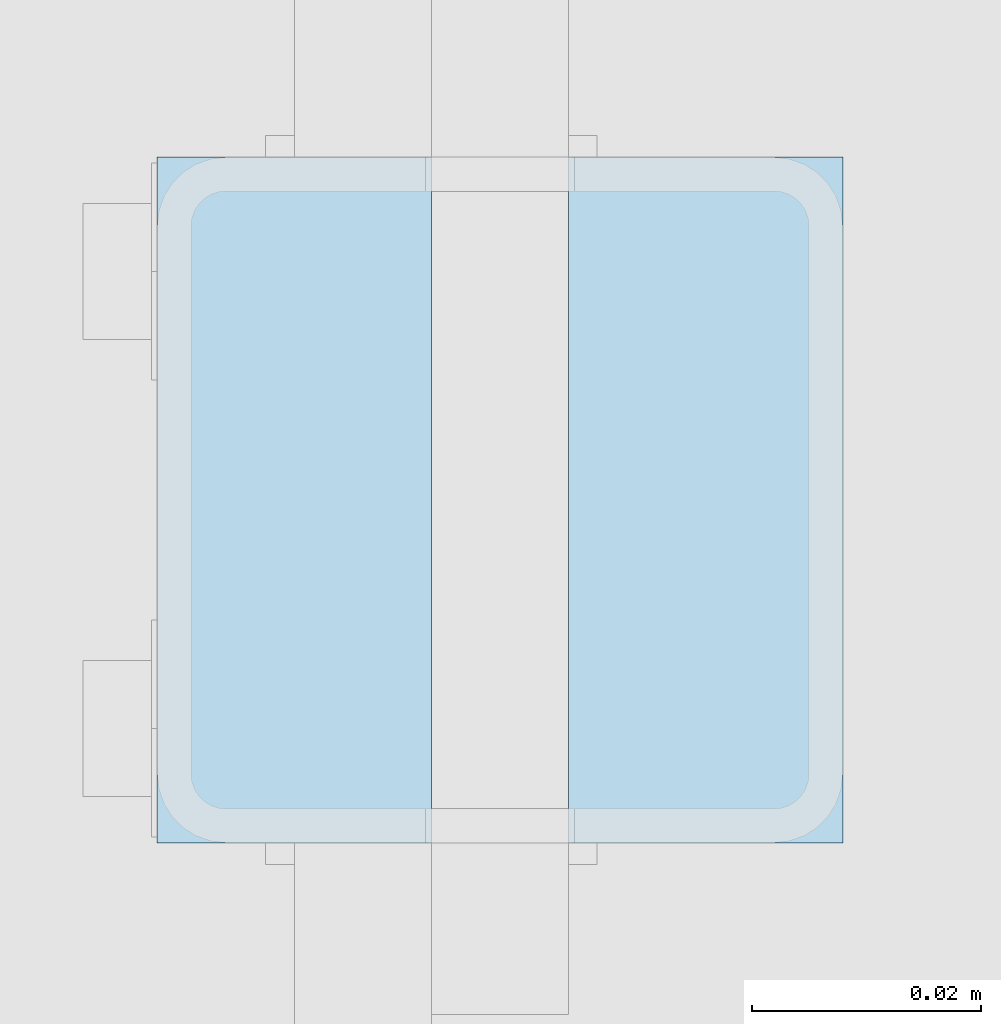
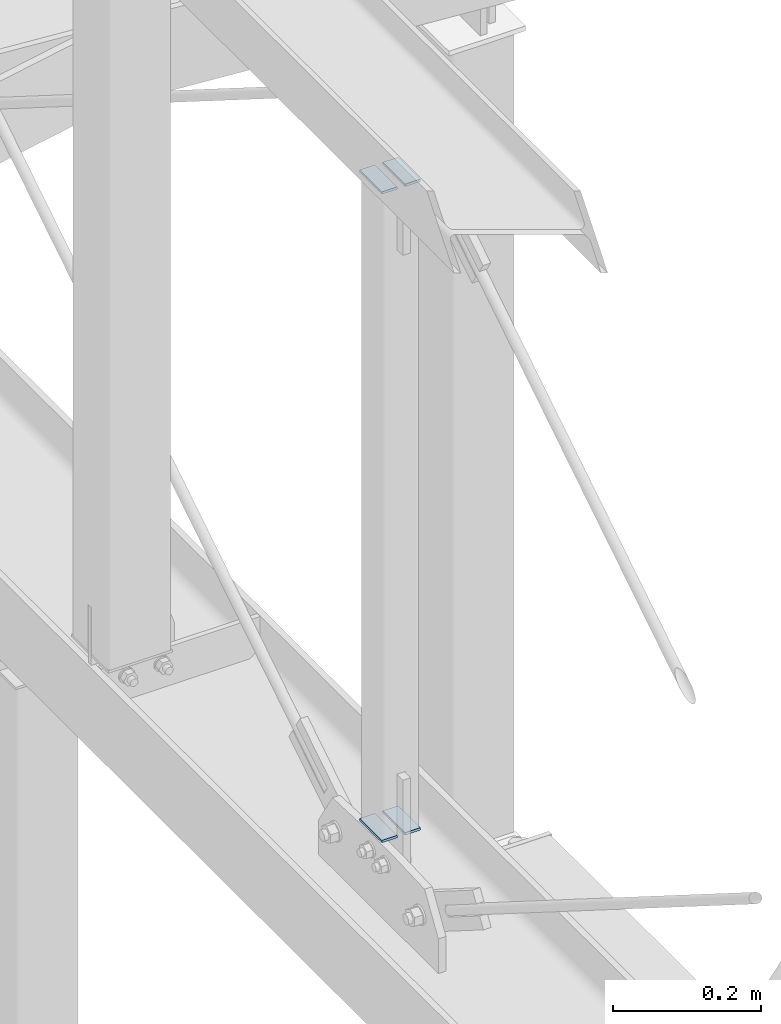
# One storey, part 201 of 271: 4 plates, 1 element without a shape of its own.
"""IFC2X3 building model written with IfcOpenShell, lengths in millimetres."""

from ifc_helpers import new_model, si_unit, frame, origin_with_axes, place, context, subcontext, project, spatial, polyline, outline, extrude, material, type_object, element, aggregate, save


model = new_model("IFC2X3")

# Units and contexts
model_context = context("Model", 3, precision=1e-05, world=origin_with_axes())
body_context = subcontext(model_context, "Body", "Model", "MODEL_VIEW")
ifc_project = project(units=[si_unit("LENGTHUNIT", "METRE", prefix="MILLI"), si_unit("AREAUNIT", "SQUARE_METRE"), si_unit("VOLUMEUNIT", "CUBIC_METRE"), si_unit("MASSUNIT", "GRAM", prefix="KILO"), si_unit("TIMEUNIT", "SECOND"), si_unit("PLANEANGLEUNIT", "RADIAN"), si_unit("SOLIDANGLEUNIT", "STERADIAN"), si_unit("THERMODYNAMICTEMPERATUREUNIT", "DEGREE_CELSIUS"), si_unit("LUMINOUSINTENSITYUNIT", "LUMEN")], contexts=[model_context])

# Site, building, storey
site_placement = place(None, origin_with_axes())
site = spatial("IfcSite", under=ifc_project, at=site_placement, Name="Undefined", CompositionType="ELEMENT")
building_placement = place(site_placement, origin_with_axes())
building = spatial("IfcBuilding", under=site, at=building_placement, Name="Undefined", CompositionType="ELEMENT")
storey_placement = place(building_placement, origin_with_axes())
storey = spatial("IfcBuildingStorey", under=building, at=storey_placement, Name="Undefined", CompositionType="ELEMENT", Elevation=0.0)

# Assembly, plates
assembly_placement = place(storey_placement, origin_with_axes())
assembly = element("IfcElementAssembly", 1, at=assembly_placement, inside=storey, AssemblyPlace="NOTDEFINED", PredefinedType="RIGID_FRAME")
ifc_material = material(Name="STEEL/S355JR")
plate_type = type_object("IfcPlateType", Name="BL4*24", PredefinedType="NOTDEFINED")
plate_1_placement = place(assembly_placement, frame((128.999999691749, 2149.19355050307, 19859.4686765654), z_axis=(0.0, 0.0, -1.0), x_axis=(-1.0, 0.0, 1.38777878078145e-17)))
plate_1 = element("IfcPlate", 2, at=plate_1_placement, type_object=plate_type, material=ifc_material, Name="BLACHA", ObjectType="BL4*24", context=body_context, shape_type="SweptSolid", body=[
    extrude(outline(polyline([(0.0, 0.0), (24.0, 0.0), (24.0, 60.0), (0.0, 60.0), (0.0, 0.0)])), frame((0.0, 0.0, -2.0), z_axis=(0.0, 0.0, 1.0), x_axis=(1.0, 0.0, 0.0)), (0.0, 0.0, 1.0), 4.0),
])
plate_2_placement = place(assembly_placement, frame((92.9999993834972, 2149.19355050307, 19859.4686765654), z_axis=(0.0, 0.0, -1.0), x_axis=(-1.0, 0.0, 1.38777878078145e-17)))
plate_2 = element("IfcPlate", 3, at=plate_2_placement, type_object=plate_type, material=ifc_material, Name="BLACHA", ObjectType="BL4*24", context=body_context, shape_type="SweptSolid", body=[
    extrude(outline(polyline([(0.0, 0.0), (24.0, 0.0), (24.0, 60.0), (0.0, 60.0), (0.0, 0.0)])), frame((0.0, 0.0, -2.0), z_axis=(0.0, 0.0, 1.0), x_axis=(1.0, 0.0, 0.0)), (0.0, 0.0, 1.0), 4.0),
])
plate_3_placement = place(assembly_placement, frame((128.999999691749, 2209.19355050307, 18789.649999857), z_axis=(0.0, 0.0, 1.0), x_axis=(-1.0, 0.0, 1.38777878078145e-17)))
plate_3 = element("IfcPlate", 4, at=plate_3_placement, type_object=plate_type, material=ifc_material, Name="BLACHA", ObjectType="BL4*24", context=body_context, shape_type="SweptSolid", body=[
    extrude(outline(polyline([(0.0, 0.0), (24.0, 0.0), (24.0, 60.0), (0.0, 60.0), (0.0, 0.0)])), frame((0.0, 0.0, -2.0), z_axis=(0.0, 0.0, 1.0), x_axis=(1.0, 0.0, 0.0)), (0.0, 0.0, 1.0), 4.0),
])
plate_4_placement = place(assembly_placement, frame((92.999999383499, 2209.19355050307, 18789.649999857), z_axis=(0.0, 0.0, 1.0), x_axis=(-1.0, 0.0, 1.38777878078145e-17)))
plate_4 = element("IfcPlate", 5, at=plate_4_placement, type_object=plate_type, material=ifc_material, Name="BLACHA", ObjectType="BL4*24", context=body_context, shape_type="SweptSolid", body=[
    extrude(outline(polyline([(0.0, 0.0), (24.0, 0.0), (24.0, 60.0), (0.0, 60.0), (0.0, 0.0)])), frame((0.0, 0.0, -2.0), z_axis=(0.0, 0.0, 1.0), x_axis=(1.0, 0.0, 0.0)), (0.0, 0.0, 1.0), 4.0),
])
aggregate(assembly, [plate_1, plate_2, plate_3, plate_4])

save(model, "model.ifc")
